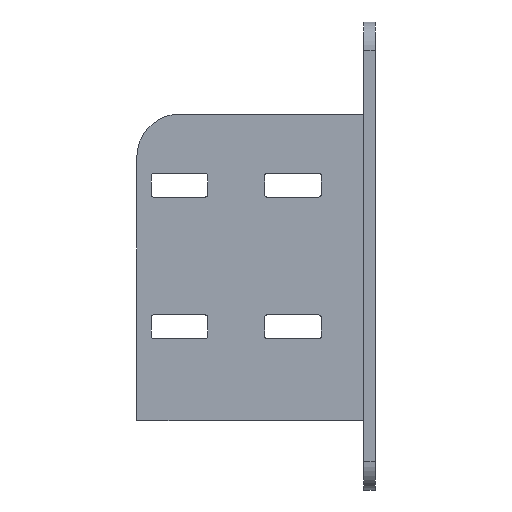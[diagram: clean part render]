
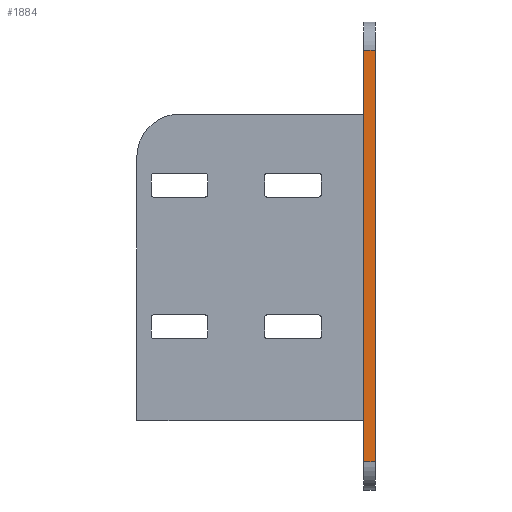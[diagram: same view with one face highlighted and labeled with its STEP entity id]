
A CAD part, left-side view. The second image highlights one B-rep face of the part: STEP entity #1884.
In plain terms, the highlighted planar face has unit normal (-1, 0, 0).
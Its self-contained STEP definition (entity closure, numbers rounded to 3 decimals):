
#48 = VERTEX_POINT ( 'NONE', #3188 ) ;
#54 = LINE ( 'NONE', #447, #2321 ) ;
#88 = DIRECTION ( 'NONE',  ( 0., 0., -1. ) ) ;
#149 = EDGE_CURVE ( 'NONE', #48, #2034, #3210, .T. ) ;
#403 = CARTESIAN_POINT ( 'NONE',  ( -82.5, 4., 47.5 ) ) ;
#413 = LINE ( 'NONE', #1642, #3406 ) ;
#447 = CARTESIAN_POINT ( 'NONE',  ( -82.5, 4., -97.5 ) ) ;
#499 = EDGE_CURVE ( 'NONE', #2355, #1061, #3467, .T. ) ;
#509 = EDGE_LOOP ( 'NONE', ( #1998, #3663, #1789, #2991 ) ) ;
#972 = VECTOR ( 'NONE', #1545, 1000. ) ;
#1003 = DIRECTION ( 'NONE',  ( 0., 0., 1. ) ) ;
#1061 = VERTEX_POINT ( 'NONE', #2484 ) ;
#1227 = FACE_OUTER_BOUND ( 'NONE', #509, .T. ) ;
#1238 = DIRECTION ( 'NONE',  ( 0., -1., 0. ) ) ;
#1504 = CARTESIAN_POINT ( 'NONE',  ( -82.5, 4., -97.5 ) ) ;
#1545 = DIRECTION ( 'NONE',  ( 0., -1., 0. ) ) ;
#1642 = CARTESIAN_POINT ( 'NONE',  ( -82.5, 0., -97.5 ) ) ;
#1789 = ORIENTED_EDGE ( 'NONE', *, *, #3479, .F. ) ;
#1796 = DIRECTION ( 'NONE',  ( 1., 0., 0. ) ) ;
#1855 = AXIS2_PLACEMENT_3D ( 'NONE', #1504, #1796, #88 ) ;
#1884 = ADVANCED_FACE ( 'NONE', ( #1227 ), #3184, .F. ) ;
#1920 = CARTESIAN_POINT ( 'NONE',  ( -82.5, 0., -97.5 ) ) ;
#1987 = VECTOR ( 'NONE', #1238, 1000. ) ;
#1998 = ORIENTED_EDGE ( 'NONE', *, *, #3332, .T. ) ;
#2034 = VERTEX_POINT ( 'NONE', #1920 ) ;
#2095 = CARTESIAN_POINT ( 'NONE',  ( -82.5, 4., 47.5 ) ) ;
#2199 = DIRECTION ( 'NONE',  ( 0., 0., 1. ) ) ;
#2321 = VECTOR ( 'NONE', #1003, 1000. ) ;
#2355 = VERTEX_POINT ( 'NONE', #403 ) ;
#2484 = CARTESIAN_POINT ( 'NONE',  ( -82.5, 0., 47.5 ) ) ;
#2991 = ORIENTED_EDGE ( 'NONE', *, *, #149, .T. ) ;
#3184 = PLANE ( 'NONE',  #1855 ) ;
#3188 = CARTESIAN_POINT ( 'NONE',  ( -82.5, 4., -97.5 ) ) ;
#3210 = LINE ( 'NONE', #3496, #972 ) ;
#3332 = EDGE_CURVE ( 'NONE', #2034, #1061, #413, .T. ) ;
#3406 = VECTOR ( 'NONE', #2199, 1000. ) ;
#3467 = LINE ( 'NONE', #2095, #1987 ) ;
#3479 = EDGE_CURVE ( 'NONE', #48, #2355, #54, .T. ) ;
#3496 = CARTESIAN_POINT ( 'NONE',  ( -82.5, 4., -97.5 ) ) ;
#3663 = ORIENTED_EDGE ( 'NONE', *, *, #499, .F. ) ;
